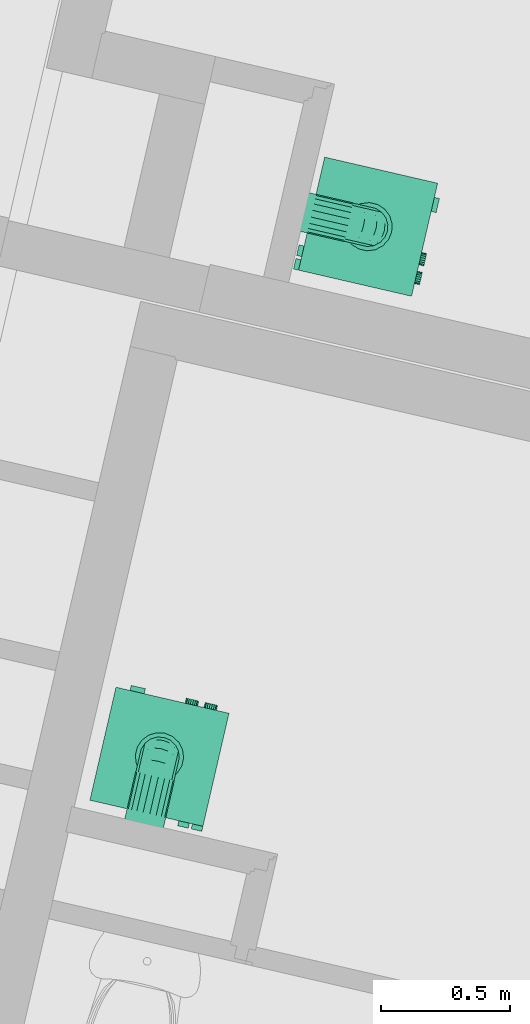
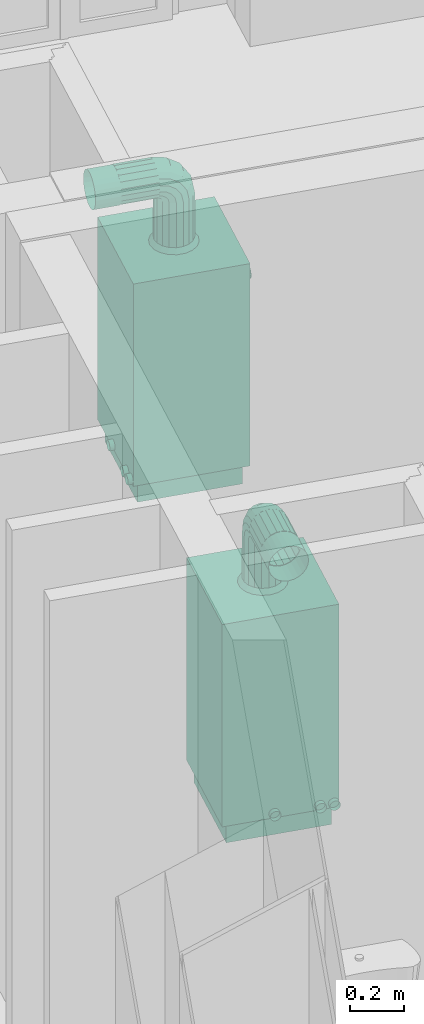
# One storey, part 79 of 90: 2 energy conversion devices.
"""IFC2X3 building model written with IfcOpenShell, lengths in metres."""

from ifc_helpers import new_model, entity, si_unit, converted_unit, derived_unit, money_unit, direction, frame, origin_with_axes, place, context, subcontext, project, spatial, open_shell, faceted_brep, surface_model, source, transform, mapped, type_object, element, save


model = new_model("IFC2X3")

# Units and contexts
model_context = context("Model", 3, precision=1e-05, world=origin_with_axes(), true_north=direction((0.0, 1.0)))
body_context = subcontext(model_context, "Body", "Model", "MODEL_VIEW")
ifc_project = project(units=[si_unit("LENGTHUNIT", "METRE"), si_unit("AREAUNIT", "SQUARE_METRE"), si_unit("VOLUMEUNIT", "CUBIC_METRE"), converted_unit("PLANEANGLEUNIT", "DEGREE", entity("IfcPlaneAngleMeasure", 0.0174532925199), si_unit("PLANEANGLEUNIT", "RADIAN"), dimensions=[0, 0, 0, 0, 0, 0, 0]), si_unit("SOLIDANGLEUNIT", "STERADIAN"), money_unit("EUR"), converted_unit("TIMEUNIT", "Year", entity("IfcTimeMeasure", 31556926.0), si_unit("TIMEUNIT", "SECOND"), dimensions=[0, 0, 1, 0, 0, 0, 0]), si_unit("MASSUNIT", "GRAM", prefix="KILO"), si_unit("THERMODYNAMICTEMPERATUREUNIT", "DEGREE_CELSIUS"), si_unit("LUMINOUSINTENSITYUNIT", "LUMEN"), si_unit("ENERGYUNIT", "JOULE", prefix="MEGA"), derived_unit("THERMALCONDUCTANCEUNIT", [(si_unit("POWERUNIT", "WATT"), 1), (si_unit("LENGTHUNIT", "METRE"), -1), (si_unit("THERMODYNAMICTEMPERATUREUNIT", "KELVIN"), -1)]), derived_unit("SPECIFICHEATCAPACITYUNIT", [(si_unit("ENERGYUNIT", "JOULE"), 1), (si_unit("MASSUNIT", "GRAM", prefix="KILO"), -1), (si_unit("THERMODYNAMICTEMPERATUREUNIT", "KELVIN"), -1)]), derived_unit("MASSDENSITYUNIT", [(si_unit("MASSUNIT", "GRAM", prefix="KILO"), 1), (si_unit("VOLUMEUNIT", "CUBIC_METRE"), -1)])], contexts=[model_context])

# Site, building, storey
site_placement = place(None, origin_with_axes())
site = spatial("IfcSite", under=ifc_project, at=site_placement, Name="Site", CompositionType="ELEMENT")
building_placement = place(site_placement, origin_with_axes())
building = spatial("IfcBuilding", under=site, at=building_placement, Name="Bâtiment", CompositionType="ELEMENT")
storey_placement = place(building_placement, frame((0.0, 0.0, 2.72), z_axis=(0.0, 0.0, 1.0), x_axis=(1.0, 0.0, 0.0)))
storey = spatial("IfcBuildingStorey", under=building, at=storey_placement, Name="R+1", CompositionType="ELEMENT", Elevation=2.72)

# Energy conversion devices
boiler_type = type_object("IfcBoilerType", Name="Chaudière à gaz 23", PredefinedType="WATER")
shared_shape = source(origin_with_axes(), body_context, "Body", "SurfaceModel", [
    surface_model("IfcShellBasedSurfaceModel", [(-0.2, 0.45, 0.090909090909), (-0.2, 0.47, 0.090909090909), (-0.194564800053, 0.47, 0.0916246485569), (-0.194564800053, 0.45, 0.0916246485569), (-0.205435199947, 0.45, 0.0916246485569), (-0.205435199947, 0.47, 0.0916246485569), (-0.1895, 0.47, 0.0937225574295), (-0.1895, 0.45, 0.0937225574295), (-0.2105, 0.45, 0.0937225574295), (-0.2105, 0.47, 0.0937225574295), (-0.185150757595, 0.47, 0.0970598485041), (-0.185150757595, 0.45, 0.0970598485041), (-0.214849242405, 0.45, 0.0970598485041), (-0.214849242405, 0.47, 0.0970598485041), (-0.181813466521, 0.47, 0.101409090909), (-0.181813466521, 0.45, 0.101409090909), (-0.218186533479, 0.45, 0.101409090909), (-0.218186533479, 0.47, 0.101409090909), (-0.179715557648, 0.47, 0.106473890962), (-0.179715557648, 0.45, 0.106473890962), (-0.220284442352, 0.45, 0.106473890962), (-0.220284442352, 0.47, 0.106473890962), (-0.179, 0.47, 0.111909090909), (-0.179, 0.45, 0.111909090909), (-0.221, 0.45, 0.111909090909), (-0.221, 0.47, 0.111909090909), (-0.179715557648, 0.47, 0.117344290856), (-0.179715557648, 0.45, 0.117344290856), (-0.220284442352, 0.45, 0.117344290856), (-0.220284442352, 0.47, 0.117344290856), (-0.181813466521, 0.47, 0.122409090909), (-0.181813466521, 0.45, 0.122409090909), (-0.218186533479, 0.45, 0.122409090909), (-0.218186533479, 0.47, 0.122409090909), (-0.185150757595, 0.47, 0.126758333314), (-0.185150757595, 0.45, 0.126758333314), (-0.214849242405, 0.45, 0.126758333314), (-0.214849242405, 0.47, 0.126758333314), (-0.1895, 0.47, 0.130095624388), (-0.1895, 0.45, 0.130095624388), (-0.2105, 0.45, 0.130095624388), (-0.2105, 0.47, 0.130095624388), (-0.194564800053, 0.47, 0.132193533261), (-0.194564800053, 0.45, 0.132193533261), (-0.205435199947, 0.45, 0.132193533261), (-0.205435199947, 0.47, 0.132193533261), (-0.2, 0.47, 0.132909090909), (-0.2, 0.45, 0.132909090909)], [open_shell([[[0, 1, 2, 3]], [[4, 5, 1, 0]], [[3, 2, 6, 7]], [[8, 9, 5, 4]], [[7, 6, 10, 11]], [[12, 13, 9, 8]], [[11, 10, 14, 15]], [[16, 17, 13, 12]], [[15, 14, 18, 19]], [[20, 21, 17, 16]], [[19, 18, 22, 23]], [[24, 25, 21, 20]], [[23, 22, 26, 27]], [[28, 29, 25, 24]], [[27, 26, 30, 31]], [[32, 33, 29, 28]], [[31, 30, 34, 35]], [[36, 37, 33, 32]], [[35, 34, 38, 39]], [[40, 41, 37, 36]], [[39, 38, 42, 43]], [[44, 45, 41, 40]], [[43, 42, 46, 47]], [[47, 46, 45, 44]]])]),
    surface_model("IfcShellBasedSurfaceModel", [(-0.375, 0.45, 0.090909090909), (-0.375, 0.47, 0.090909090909), (-0.369564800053, 0.47, 0.0916246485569), (-0.369564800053, 0.45, 0.0916246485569), (-0.380435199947, 0.45, 0.0916246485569), (-0.380435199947, 0.47, 0.0916246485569), (-0.3645, 0.47, 0.0937225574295), (-0.3645, 0.45, 0.0937225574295), (-0.3855, 0.45, 0.0937225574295), (-0.3855, 0.47, 0.0937225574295), (-0.360150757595, 0.47, 0.0970598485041), (-0.360150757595, 0.45, 0.0970598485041), (-0.389849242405, 0.45, 0.0970598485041), (-0.389849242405, 0.47, 0.0970598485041), (-0.356813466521, 0.47, 0.101409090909), (-0.356813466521, 0.45, 0.101409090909), (-0.393186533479, 0.45, 0.101409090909), (-0.393186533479, 0.47, 0.101409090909), (-0.354715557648, 0.47, 0.106473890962), (-0.354715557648, 0.45, 0.106473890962), (-0.395284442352, 0.45, 0.106473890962), (-0.395284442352, 0.47, 0.106473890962), (-0.354, 0.47, 0.111909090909), (-0.354, 0.45, 0.111909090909), (-0.396, 0.45, 0.111909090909), (-0.396, 0.47, 0.111909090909), (-0.354715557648, 0.47, 0.117344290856), (-0.354715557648, 0.45, 0.117344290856), (-0.395284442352, 0.45, 0.117344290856), (-0.395284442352, 0.47, 0.117344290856), (-0.356813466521, 0.47, 0.122409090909), (-0.356813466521, 0.45, 0.122409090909), (-0.393186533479, 0.45, 0.122409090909), (-0.393186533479, 0.47, 0.122409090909), (-0.360150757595, 0.47, 0.126758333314), (-0.360150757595, 0.45, 0.126758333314), (-0.389849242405, 0.45, 0.126758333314), (-0.389849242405, 0.47, 0.126758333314), (-0.3645, 0.47, 0.130095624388), (-0.3645, 0.45, 0.130095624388), (-0.3855, 0.45, 0.130095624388), (-0.3855, 0.47, 0.130095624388), (-0.369564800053, 0.47, 0.132193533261), (-0.369564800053, 0.45, 0.132193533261), (-0.380435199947, 0.45, 0.132193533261), (-0.380435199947, 0.47, 0.132193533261), (-0.375, 0.47, 0.132909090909), (-0.375, 0.45, 0.132909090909)], [open_shell([[[0, 1, 2, 3]], [[4, 5, 1, 0]], [[3, 2, 6, 7]], [[8, 9, 5, 4]], [[7, 6, 10, 11]], [[12, 13, 9, 8]], [[11, 10, 14, 15]], [[16, 17, 13, 12]], [[15, 14, 18, 19]], [[20, 21, 17, 16]], [[19, 18, 22, 23]], [[24, 25, 21, 20]], [[23, 22, 26, 27]], [[28, 29, 25, 24]], [[27, 26, 30, 31]], [[32, 33, 29, 28]], [[31, 30, 34, 35]], [[36, 37, 33, 32]], [[35, 34, 38, 39]], [[40, 41, 37, 36]], [[39, 38, 42, 43]], [[44, 45, 41, 40]], [[43, 42, 46, 47]], [[47, 46, 45, 44]]])]),
    surface_model("IfcShellBasedSurfaceModel", [(-0.429, 0.45, 0.090909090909), (-0.429, 0.47, 0.090909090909), (-0.423564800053, 0.47, 0.0916246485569), (-0.423564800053, 0.45, 0.0916246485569), (-0.434435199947, 0.45, 0.0916246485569), (-0.434435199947, 0.47, 0.0916246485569), (-0.4185, 0.47, 0.0937225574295), (-0.4185, 0.45, 0.0937225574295), (-0.4395, 0.45, 0.0937225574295), (-0.4395, 0.47, 0.0937225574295), (-0.414150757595, 0.47, 0.0970598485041), (-0.414150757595, 0.45, 0.0970598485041), (-0.443849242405, 0.45, 0.0970598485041), (-0.443849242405, 0.47, 0.0970598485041), (-0.410813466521, 0.47, 0.101409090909), (-0.410813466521, 0.45, 0.101409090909), (-0.447186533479, 0.45, 0.101409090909), (-0.447186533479, 0.47, 0.101409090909), (-0.408715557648, 0.47, 0.106473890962), (-0.408715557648, 0.45, 0.106473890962), (-0.449284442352, 0.45, 0.106473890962), (-0.449284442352, 0.47, 0.106473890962), (-0.408, 0.47, 0.111909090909), (-0.408, 0.45, 0.111909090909), (-0.45, 0.45, 0.111909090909), (-0.45, 0.47, 0.111909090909), (-0.408715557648, 0.47, 0.117344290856), (-0.408715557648, 0.45, 0.117344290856), (-0.449284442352, 0.45, 0.117344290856), (-0.449284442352, 0.47, 0.117344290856), (-0.410813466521, 0.47, 0.122409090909), (-0.410813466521, 0.45, 0.122409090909), (-0.447186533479, 0.45, 0.122409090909), (-0.447186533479, 0.47, 0.122409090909), (-0.414150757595, 0.47, 0.126758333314), (-0.414150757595, 0.45, 0.126758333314), (-0.443849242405, 0.45, 0.126758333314), (-0.443849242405, 0.47, 0.126758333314), (-0.4185, 0.47, 0.130095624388), (-0.4185, 0.45, 0.130095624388), (-0.4395, 0.45, 0.130095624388), (-0.4395, 0.47, 0.130095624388), (-0.423564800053, 0.47, 0.132193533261), (-0.423564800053, 0.45, 0.132193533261), (-0.434435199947, 0.45, 0.132193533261), (-0.434435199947, 0.47, 0.132193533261), (-0.429, 0.47, 0.132909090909), (-0.429, 0.45, 0.132909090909)], [open_shell([[[0, 1, 2, 3]], [[4, 5, 1, 0]], [[3, 2, 6, 7]], [[8, 9, 5, 4]], [[7, 6, 10, 11]], [[12, 13, 9, 8]], [[11, 10, 14, 15]], [[16, 17, 13, 12]], [[15, 14, 18, 19]], [[20, 21, 17, 16]], [[19, 18, 22, 23]], [[24, 25, 21, 20]], [[23, 22, 26, 27]], [[28, 29, 25, 24]], [[27, 26, 30, 31]], [[32, 33, 29, 28]], [[31, 30, 34, 35]], [[36, 37, 33, 32]], [[35, 34, 38, 39]], [[40, 41, 37, 36]], [[39, 38, 42, 43]], [[44, 45, 41, 40]], [[43, 42, 46, 47]], [[47, 46, 45, 44]]])]),
    surface_model("IfcShellBasedSurfaceModel", [(-0.225, 0.45, 1.218), (-0.225, 0.55, 1.218), (-0.205070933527, 0.55, 1.22062371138), (-0.205070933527, 0.45, 1.22062371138), (-0.244929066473, 0.45, 1.22062371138), (-0.244929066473, 0.55, 1.22062371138), (-0.1865, 0.55, 1.22831604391), (-0.1865, 0.45, 1.22831604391), (-0.2635, 0.45, 1.22831604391), (-0.2635, 0.55, 1.22831604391), (-0.170552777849, 0.55, 1.24055277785), (-0.170552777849, 0.45, 1.24055277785), (-0.279447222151, 0.45, 1.24055277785), (-0.279447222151, 0.55, 1.24055277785), (-0.158316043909, 0.55, 1.2565), (-0.158316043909, 0.45, 1.2565), (-0.291683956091, 0.45, 1.2565), (-0.291683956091, 0.55, 1.2565), (-0.150623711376, 0.55, 1.27507093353), (-0.150623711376, 0.45, 1.27507093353), (-0.299376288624, 0.45, 1.27507093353), (-0.299376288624, 0.55, 1.27507093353), (-0.148, 0.55, 1.295), (-0.148, 0.45, 1.295), (-0.302, 0.45, 1.295), (-0.302, 0.55, 1.295), (-0.150623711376, 0.55, 1.31492906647), (-0.150623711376, 0.45, 1.31492906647), (-0.299376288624, 0.45, 1.31492906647), (-0.299376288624, 0.55, 1.31492906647), (-0.158316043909, 0.55, 1.3335), (-0.158316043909, 0.45, 1.3335), (-0.291683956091, 0.45, 1.3335), (-0.291683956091, 0.55, 1.3335), (-0.170552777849, 0.55, 1.34944722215), (-0.170552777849, 0.45, 1.34944722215), (-0.279447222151, 0.45, 1.34944722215), (-0.279447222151, 0.55, 1.34944722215), (-0.1865, 0.55, 1.36168395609), (-0.1865, 0.45, 1.36168395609), (-0.2635, 0.45, 1.36168395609), (-0.2635, 0.55, 1.36168395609), (-0.205070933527, 0.55, 1.36937628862), (-0.205070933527, 0.45, 1.36937628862), (-0.244929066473, 0.45, 1.36937628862), (-0.244929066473, 0.55, 1.36937628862), (-0.225, 0.55, 1.372), (-0.225, 0.45, 1.372)], [open_shell([[[0, 1, 2, 3]], [[4, 5, 1, 0]], [[3, 2, 6, 7]], [[8, 9, 5, 4]], [[7, 6, 10, 11]], [[12, 13, 9, 8]], [[11, 10, 14, 15]], [[16, 17, 13, 12]], [[15, 14, 18, 19]], [[20, 21, 17, 16]], [[19, 18, 22, 23]], [[24, 25, 21, 20]], [[23, 22, 26, 27]], [[28, 29, 25, 24]], [[27, 26, 30, 31]], [[32, 33, 29, 28]], [[31, 30, 34, 35]], [[36, 37, 33, 32]], [[35, 34, 38, 39]], [[40, 41, 37, 36]], [[39, 38, 42, 43]], [[44, 45, 41, 40]], [[43, 42, 46, 47]], [[47, 46, 45, 44]]])]),
    faceted_brep([(-0.4275, 0.0225, 0.0), (-0.4275, 0.4275, 0.0), (-0.0225, 0.4275, 0.0), (-0.0225, 0.0225, 0.0), (-0.4275, 0.0225, 0.0909090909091), (-0.4275, 0.4275, 0.0909090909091), (-0.0225, 0.4275, 0.0909090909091), (-0.0225, 0.0225, 0.0909090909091)], [[[0, 1, 2, 3]], [[0, 4, 5, 1]], [[1, 5, 6, 2]], [[2, 6, 7, 3]], [[3, 7, 4, 0]], [[7, 6, 5, 4]]]),
    faceted_brep([(0.0, 0.45, 0.0909090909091), (-0.45, 0.45, 0.0909090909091), (-0.45, 0.45, 1.0), (0.0, 0.45, 1.0), (0.0, 0.0, 0.0909090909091), (-0.45, 0.0, 0.0909090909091), (-0.45, 0.0, 0.818181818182), (-0.45, 0.0225, 0.818181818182), (-0.45, 0.0225, 1.0), (0.0, 0.0225, 1.0), (0.0, 0.0225, 0.818181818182), (0.0, 0.0, 0.818181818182)], [[[0, 1, 2, 3]], [[4, 5, 1, 0]], [[1, 5, 6, 7, 8, 2]], [[3, 2, 8, 9]], [[0, 3, 9, 10, 11, 4]], [[11, 6, 5, 4]], [[10, 7, 6, 11]], [[9, 8, 7, 10]]]),
    faceted_brep([(-0.45, 0.0, 0.818181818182), (-0.45, 0.0225, 0.818181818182), (0.0, 0.0225, 0.818181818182), (0.0, 0.0, 0.818181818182), (-0.45, 0.0, 1.0), (-0.45, 0.0225, 1.0), (0.0, 0.0225, 1.0), (0.0, 0.0, 1.0)], [[[0, 1, 2, 3]], [[0, 4, 5, 1]], [[1, 5, 6, 2]], [[2, 6, 7, 3]], [[3, 7, 4, 0]], [[7, 6, 5, 4]]]),
    faceted_brep([(-0.32349231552, 0.0, 0.900540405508), (-0.325, 0.0, 0.909090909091), (-0.32349231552, 0.0, 0.917641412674), (-0.319151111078, 0.0, 0.925160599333), (-0.3125, 0.0, 0.930741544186), (-0.304341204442, 0.0, 0.933711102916), (-0.295658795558, 0.0, 0.933711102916), (-0.2875, 0.0, 0.930741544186), (-0.280848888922, 0.0, 0.925160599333), (-0.27650768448, 0.0, 0.917641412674), (-0.275, 0.0, 0.909090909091), (-0.27650768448, 0.0, 0.900540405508), (-0.280848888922, 0.0, 0.893021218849), (-0.2875, 0.0, 0.887440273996), (-0.295658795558, 0.0, 0.884470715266), (-0.304341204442, 0.0, 0.884470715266), (-0.3125, 0.0, 0.887440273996), (-0.319151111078, 0.0, 0.893021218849), (-0.32349231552, -0.02, 0.900540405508), (-0.325, -0.02, 0.909090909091), (-0.32349231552, -0.02, 0.917641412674), (-0.319151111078, -0.02, 0.925160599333), (-0.3125, -0.02, 0.930741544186), (-0.304341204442, -0.02, 0.933711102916), (-0.295658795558, -0.02, 0.933711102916), (-0.2875, -0.02, 0.930741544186), (-0.280848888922, -0.02, 0.925160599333), (-0.27650768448, -0.02, 0.917641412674), (-0.275, -0.02, 0.909090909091), (-0.27650768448, -0.02, 0.900540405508), (-0.280848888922, -0.02, 0.893021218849), (-0.2875, -0.02, 0.887440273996), (-0.295658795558, -0.02, 0.884470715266), (-0.304341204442, -0.02, 0.884470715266), (-0.3125, -0.02, 0.887440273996), (-0.319151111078, -0.02, 0.893021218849)], [[[0, 1, 2, 3, 4, 5, 6, 7, 8, 9, 10, 11, 12, 13, 14, 15, 16, 17]], [[0, 18, 19, 1]], [[1, 19, 20, 2]], [[2, 20, 21, 3]], [[3, 21, 22, 4]], [[4, 22, 23, 5]], [[5, 23, 24, 6]], [[6, 24, 25, 7]], [[7, 25, 26, 8]], [[8, 26, 27, 9]], [[9, 27, 28, 10]], [[10, 28, 29, 11]], [[11, 29, 30, 12]], [[12, 30, 31, 13]], [[13, 31, 32, 14]], [[14, 32, 33, 15]], [[15, 33, 34, 16]], [[16, 34, 35, 17]], [[17, 35, 18, 0]], [[18, 35, 34, 33, 32, 31, 30, 29, 28, 27, 26, 25, 24, 23, 22, 21, 20, 19]]]),
    faceted_brep([(-0.39849231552, 0.0, 0.900540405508), (-0.4, 0.0, 0.909090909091), (-0.39849231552, 0.0, 0.917641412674), (-0.394151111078, 0.0, 0.925160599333), (-0.3875, 0.0, 0.930741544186), (-0.379341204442, 0.0, 0.933711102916), (-0.370658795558, 0.0, 0.933711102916), (-0.3625, 0.0, 0.930741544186), (-0.355848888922, 0.0, 0.925160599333), (-0.35150768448, 0.0, 0.917641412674), (-0.35, 0.0, 0.909090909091), (-0.35150768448, 0.0, 0.900540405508), (-0.355848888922, 0.0, 0.893021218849), (-0.3625, 0.0, 0.887440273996), (-0.370658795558, 0.0, 0.884470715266), (-0.379341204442, 0.0, 0.884470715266), (-0.3875, 0.0, 0.887440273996), (-0.394151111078, 0.0, 0.893021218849), (-0.39849231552, -0.02, 0.900540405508), (-0.4, -0.02, 0.909090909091), (-0.39849231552, -0.02, 0.917641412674), (-0.394151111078, -0.02, 0.925160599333), (-0.3875, -0.02, 0.930741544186), (-0.379341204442, -0.02, 0.933711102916), (-0.370658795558, -0.02, 0.933711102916), (-0.3625, -0.02, 0.930741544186), (-0.355848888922, -0.02, 0.925160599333), (-0.35150768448, -0.02, 0.917641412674), (-0.35, -0.02, 0.909090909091), (-0.35150768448, -0.02, 0.900540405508), (-0.355848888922, -0.02, 0.893021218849), (-0.3625, -0.02, 0.887440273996), (-0.370658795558, -0.02, 0.884470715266), (-0.379341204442, -0.02, 0.884470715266), (-0.3875, -0.02, 0.887440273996), (-0.394151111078, -0.02, 0.893021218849)], [[[0, 1, 2, 3, 4, 5, 6, 7, 8, 9, 10, 11, 12, 13, 14, 15, 16, 17]], [[0, 18, 19, 1]], [[1, 19, 20, 2]], [[2, 20, 21, 3]], [[3, 21, 22, 4]], [[4, 22, 23, 5]], [[5, 23, 24, 6]], [[6, 24, 25, 7]], [[7, 25, 26, 8]], [[8, 26, 27, 9]], [[9, 27, 28, 10]], [[10, 28, 29, 11]], [[11, 29, 30, 12]], [[12, 30, 31, 13]], [[13, 31, 32, 14]], [[14, 32, 33, 15]], [[15, 33, 34, 16]], [[16, 34, 35, 17]], [[17, 35, 18, 0]], [[18, 35, 34, 33, 32, 31, 30, 29, 28, 27, 26, 25, 24, 23, 22, 21, 20, 19]]]),
    faceted_brep([(-0.1125, 0.0, 0.878787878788), (-0.1125, 0.0, 0.939393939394), (-0.05625, 0.0, 0.939393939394), (-0.05625, 0.0, 0.878787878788), (-0.1125, -0.02, 0.878787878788), (-0.1125, -0.02, 0.939393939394), (-0.05625, -0.02, 0.939393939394), (-0.05625, -0.02, 0.878787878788)], [[[0, 1, 2, 3]], [[0, 4, 5, 1]], [[1, 5, 6, 2]], [[2, 6, 7, 3]], [[3, 7, 4, 0]], [[7, 6, 5, 4]]]),
    surface_model("IfcShellBasedSurfaceModel", [(-0.198664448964, 0.297356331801, 1.22), (-0.198664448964, 0.297356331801, 1.02), (-0.225, 0.302, 1.02), (-0.225, 0.302, 1.22), (-0.175505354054, 0.28398542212, 1.22), (-0.175505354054, 0.28398542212, 1.02), (-0.192935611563, 0.313096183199, 1.0), (-0.225, 0.31875, 1.0), (-0.251335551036, 0.297356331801, 1.02), (-0.251335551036, 0.297356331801, 1.22), (-0.158316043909, 0.2635, 1.22), (-0.158316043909, 0.2635, 1.02), (-0.164738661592, 0.296816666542, 1.0), (-0.257064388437, 0.313096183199, 1.0), (-0.274494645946, 0.28398542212, 1.02), (-0.274494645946, 0.28398542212, 1.22), (-0.149169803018, 0.23837090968, 1.22), (-0.149169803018, 0.23837090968, 1.02), (-0.143810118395, 0.271875, 1.0), (-0.285261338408, 0.296816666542, 1.0), (-0.291683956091, 0.2635, 1.02), (-0.291683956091, 0.2635, 1.22), (-0.149169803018, 0.21162909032, 1.22), (-0.149169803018, 0.21162909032, 1.02), (-0.132674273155, 0.241279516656, 1.0), (-0.306189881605, 0.271875, 1.0), (-0.300830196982, 0.23837090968, 1.02), (-0.300830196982, 0.23837090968, 1.22), (-0.158316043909, 0.1865, 1.22), (-0.158316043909, 0.1865, 1.02), (-0.132674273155, 0.208720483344, 1.0), (-0.317325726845, 0.241279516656, 1.0), (-0.300830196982, 0.21162909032, 1.02), (-0.300830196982, 0.21162909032, 1.22), (-0.175505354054, 0.16601457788, 1.22), (-0.175505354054, 0.16601457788, 1.02), (-0.143810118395, 0.178125, 1.0), (-0.317325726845, 0.208720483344, 1.0), (-0.291683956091, 0.1865, 1.02), (-0.291683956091, 0.1865, 1.22), (-0.198664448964, 0.152643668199, 1.22), (-0.198664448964, 0.152643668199, 1.02), (-0.164738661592, 0.153183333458, 1.0), (-0.306189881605, 0.178125, 1.0), (-0.274494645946, 0.16601457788, 1.02), (-0.274494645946, 0.16601457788, 1.22), (-0.225, 0.148, 1.22), (-0.225, 0.148, 1.02), (-0.192935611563, 0.136903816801, 1.0), (-0.285261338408, 0.153183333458, 1.0), (-0.251335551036, 0.152643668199, 1.02), (-0.251335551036, 0.152643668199, 1.22), (-0.225, 0.13125, 1.0), (-0.257064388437, 0.136903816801, 1.0)], [open_shell([[[0, 1, 2, 3]], [[4, 5, 1, 0]], [[1, 6, 7, 2]], [[3, 2, 8, 9]], [[10, 11, 5, 4]], [[5, 12, 6, 1]], [[2, 7, 13, 8]], [[9, 8, 14, 15]], [[16, 17, 11, 10]], [[11, 18, 12, 5]], [[8, 13, 19, 14]], [[15, 14, 20, 21]], [[22, 23, 17, 16]], [[17, 24, 18, 11]], [[14, 19, 25, 20]], [[21, 20, 26, 27]], [[28, 29, 23, 22]], [[23, 30, 24, 17]], [[20, 25, 31, 26]], [[27, 26, 32, 33]], [[34, 35, 29, 28]], [[29, 36, 30, 23]], [[26, 31, 37, 32]], [[33, 32, 38, 39]], [[40, 41, 35, 34]], [[35, 42, 36, 29]], [[32, 37, 43, 38]], [[39, 38, 44, 45]], [[46, 47, 41, 40]], [[41, 48, 42, 35]], [[38, 43, 49, 44]], [[45, 44, 50, 51]], [[51, 50, 47, 46]], [[47, 52, 48, 41]], [[44, 49, 53, 50]], [[50, 53, 52, 47]]])]),
    faceted_brep([(-0.300830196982, 0.218508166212, 1.2545834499), (-0.300830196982, 0.21162909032, 1.22), (-0.291683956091, 0.1865, 1.22), (-0.291683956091, 0.195291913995, 1.26419993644), (-0.300830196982, 0.243214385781, 1.24434979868), (-0.300830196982, 0.23837090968, 1.22), (-0.291683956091, 0.2635, 1.22), (-0.274494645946, 0.28398542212, 1.22), (-0.251335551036, 0.297356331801, 1.22), (-0.225, 0.302, 1.22), (-0.198664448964, 0.297356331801, 1.22), (-0.175505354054, 0.28398542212, 1.22), (-0.158316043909, 0.2635, 1.22), (-0.149169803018, 0.23837090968, 1.22), (-0.149169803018, 0.21162909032, 1.22), (-0.158316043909, 0.1865, 1.22), (-0.175505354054, 0.16601457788, 1.22), (-0.198664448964, 0.152643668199, 1.22), (-0.225, 0.148, 1.22), (-0.251335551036, 0.152643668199, 1.22), (-0.274494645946, 0.16601457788, 1.22), (-0.274494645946, 0.176365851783, 1.27203936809), (-0.300830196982, 0.238098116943, 1.28390188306), (-0.291683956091, 0.220329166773, 1.30167083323), (-0.300830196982, 0.257007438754, 1.26499256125), (-0.291683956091, 0.266430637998, 1.23473331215), (-0.274494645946, 0.28535670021, 1.2268938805), (-0.251335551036, 0.297709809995, 1.22177705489), (-0.198664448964, 0.297709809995, 1.22177705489), (-0.175505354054, 0.28535670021, 1.2268938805), (-0.158316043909, 0.266430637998, 1.23473331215), (-0.149169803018, 0.243214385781, 1.24434979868), (-0.149169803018, 0.218508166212, 1.2545834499), (-0.158316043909, 0.195291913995, 1.26419993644), (-0.175505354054, 0.176365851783, 1.27203936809), (-0.198664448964, 0.164012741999, 1.2771561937), (-0.225, 0.159722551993, 1.27893324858), (-0.251335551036, 0.164012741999, 1.2771561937), (-0.274494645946, 0.205843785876, 1.31615621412), (-0.291683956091, 0.257800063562, 1.32670808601), (-0.300830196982, 0.267416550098, 1.30349183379), (-0.300830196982, 0.277650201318, 1.27878561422), (-0.291683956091, 0.274776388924, 1.24722361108), (-0.274494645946, 0.289261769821, 1.23273823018), (-0.251335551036, 0.298716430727, 1.22328356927), (-0.198664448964, 0.298716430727, 1.22328356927), (-0.175505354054, 0.289261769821, 1.23273823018), (-0.158316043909, 0.274776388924, 1.24722361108), (-0.149169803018, 0.257007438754, 1.26499256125), (-0.149169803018, 0.238098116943, 1.28390188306), (-0.158316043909, 0.220329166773, 1.30167083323), (-0.175505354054, 0.205843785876, 1.31615621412), (-0.198664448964, 0.196389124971, 1.32561087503), (-0.225, 0.193105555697, 1.3288944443), (-0.251335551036, 0.196389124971, 1.32561087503), (-0.274494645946, 0.249960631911, 1.34563414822), (-0.291683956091, 0.302, 1.3355), (-0.300830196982, 0.302, 1.31037090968), (-0.300830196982, 0.302, 1.28362909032), (-0.291683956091, 0.287266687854, 1.255569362), (-0.274494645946, 0.295106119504, 1.23664329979), (-0.251335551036, 0.300222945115, 1.22429019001), (-0.198664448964, 0.300222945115, 1.22429019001), (-0.175505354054, 0.295106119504, 1.23664329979), (-0.158316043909, 0.287266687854, 1.255569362), (-0.149169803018, 0.277650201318, 1.27878561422), (-0.149169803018, 0.267416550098, 1.30349183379), (-0.158316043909, 0.257800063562, 1.32670808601), (-0.175505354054, 0.249960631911, 1.34563414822), (-0.198664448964, 0.244843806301, 1.357987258), (-0.225, 0.243066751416, 1.36227744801), (-0.251335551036, 0.244843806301, 1.357987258), (-0.274494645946, 0.302, 1.35598542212), (-0.291683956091, 0.302, 1.2585), (-0.251335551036, 0.302, 1.3693563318), (-0.225, 0.302, 1.374), (-0.198664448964, 0.302, 1.3693563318), (-0.175505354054, 0.302, 1.35598542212), (-0.158316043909, 0.302, 1.3355), (-0.149169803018, 0.302, 1.31037090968), (-0.149169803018, 0.302, 1.28362909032), (-0.158316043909, 0.302, 1.2585), (-0.175505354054, 0.302, 1.23801457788), (-0.198664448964, 0.302, 1.2246436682), (-0.251335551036, 0.302, 1.2246436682), (-0.274494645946, 0.302, 1.23801457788)], [[[0, 1, 2, 3]], [[1, 0, 4, 5]], [[2, 1, 5, 6, 7, 8, 9, 10, 11, 12, 13, 14, 15, 16, 17, 18, 19, 20]], [[3, 2, 20, 21]], [[22, 0, 3, 23]], [[0, 22, 24, 4]], [[6, 5, 4, 25]], [[26, 7, 6, 25]], [[7, 26, 27, 8]], [[8, 27, 9]], [[28, 10, 9]], [[10, 28, 29, 11]], [[30, 12, 11, 29]], [[12, 30, 31, 13]], [[32, 14, 13, 31]], [[15, 14, 32, 33]], [[34, 16, 15, 33]], [[17, 16, 34, 35]], [[36, 18, 17, 35]], [[19, 18, 36, 37]], [[21, 20, 19, 37]], [[23, 3, 21, 38]], [[22, 23, 39, 40]], [[24, 22, 40, 41]], [[4, 24, 42, 25]], [[43, 26, 25, 42]], [[26, 43, 44, 27]], [[27, 44, 9]], [[45, 28, 9]], [[28, 45, 46, 29]], [[29, 46, 47, 30]], [[31, 30, 47, 48]], [[49, 32, 31, 48]], [[32, 49, 50, 33]], [[51, 34, 33, 50]], [[35, 34, 51, 52]], [[53, 36, 35, 52]], [[54, 37, 36, 53]], [[38, 21, 37, 54]], [[39, 23, 38, 55]], [[40, 39, 56, 57]], [[41, 40, 57, 58]], [[59, 42, 24, 41]], [[42, 59, 60, 43]], [[43, 60, 61, 44]], [[44, 61, 9]], [[62, 45, 9]], [[45, 62, 63, 46]], [[46, 63, 64, 47]], [[47, 64, 65, 48]], [[66, 49, 48, 65]], [[50, 49, 66, 67]], [[68, 51, 50, 67]], [[52, 51, 68, 69]], [[53, 52, 69, 70]], [[71, 54, 53, 70]], [[55, 38, 54, 71]], [[56, 39, 55, 72]], [[73, 58, 57, 56, 72, 74, 75, 76, 77, 78, 79, 80, 81, 82, 83, 9, 84, 85]], [[59, 41, 58, 73]], [[59, 73, 85, 60]], [[60, 85, 84, 61]], [[61, 84, 9]], [[62, 9, 83]], [[63, 62, 83, 82]], [[63, 82, 81, 64]], [[65, 64, 81, 80]], [[66, 65, 80, 79]], [[67, 66, 79, 78]], [[77, 68, 67, 78]], [[69, 68, 77, 76]], [[75, 70, 69, 76]], [[71, 70, 75, 74]], [[72, 55, 71, 74]]]),
    surface_model("IfcShellBasedSurfaceModel", [(-0.152643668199, 0.45, 1.32333555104), (-0.152643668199, 0.302, 1.32333555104), (-0.148, 0.302, 1.297), (-0.148, 0.45, 1.297), (-0.16601457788, 0.45, 1.34649464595), (-0.16601457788, 0.302, 1.34649464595), (-0.152643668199, 0.302, 1.27066444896), (-0.152643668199, 0.45, 1.27066444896), (-0.1865, 0.45, 1.36368395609), (-0.1865, 0.302, 1.36368395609), (-0.16601457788, 0.302, 1.24750535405), (-0.16601457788, 0.45, 1.24750535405), (-0.21162909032, 0.45, 1.37283019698), (-0.21162909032, 0.302, 1.37283019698), (-0.1865, 0.302, 1.23031604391), (-0.1865, 0.45, 1.23031604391), (-0.23837090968, 0.45, 1.37283019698), (-0.23837090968, 0.302, 1.37283019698), (-0.21162909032, 0.302, 1.22116980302), (-0.21162909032, 0.45, 1.22116980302), (-0.2635, 0.45, 1.36368395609), (-0.2635, 0.302, 1.36368395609), (-0.23837090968, 0.302, 1.22116980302), (-0.23837090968, 0.45, 1.22116980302), (-0.28398542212, 0.45, 1.34649464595), (-0.28398542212, 0.302, 1.34649464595), (-0.2635, 0.302, 1.23031604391), (-0.2635, 0.45, 1.23031604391), (-0.297356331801, 0.45, 1.32333555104), (-0.297356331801, 0.302, 1.32333555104), (-0.28398542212, 0.302, 1.24750535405), (-0.28398542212, 0.45, 1.24750535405), (-0.302, 0.45, 1.297), (-0.302, 0.302, 1.297), (-0.297356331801, 0.302, 1.27066444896), (-0.297356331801, 0.45, 1.27066444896)], [open_shell([[[0, 1, 2, 3]], [[4, 5, 1, 0]], [[3, 2, 6, 7]], [[8, 9, 5, 4]], [[7, 6, 10, 11]], [[12, 13, 9, 8]], [[11, 10, 14, 15]], [[16, 17, 13, 12]], [[15, 14, 18, 19]], [[20, 21, 17, 16]], [[19, 18, 22, 23]], [[24, 25, 21, 20]], [[23, 22, 26, 27]], [[28, 29, 25, 24]], [[27, 26, 30, 31]], [[32, 33, 29, 28]], [[31, 30, 34, 35]], [[35, 34, 33, 32]]])]),
])
for number, where, z_axis, x_axis, name in (
    (1, (-8.01390644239, 2.42308955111, 0.9), (0.0, 0.0, 1.0), (-0.974387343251, 0.224876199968, 0.0), "MOB-002"),
    (2, (-6.76604904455, 4.37813973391, 0.9), (0.0, 0.0, 1.0), (0.224876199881, 0.974387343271, 0.0), "MOB-002"),
):
    element("IfcEnergyConversionDevice", number, at=place(storey_placement, frame(where, z_axis=z_axis, x_axis=x_axis)), inside=storey, type_object=boiler_type, Name=name, context=body_context, shape_type="MappedRepresentation", body=[
        mapped(shared_shape, transform((0.0, 0.0, 0.0))),
    ])

save(model, "model.ifc")
